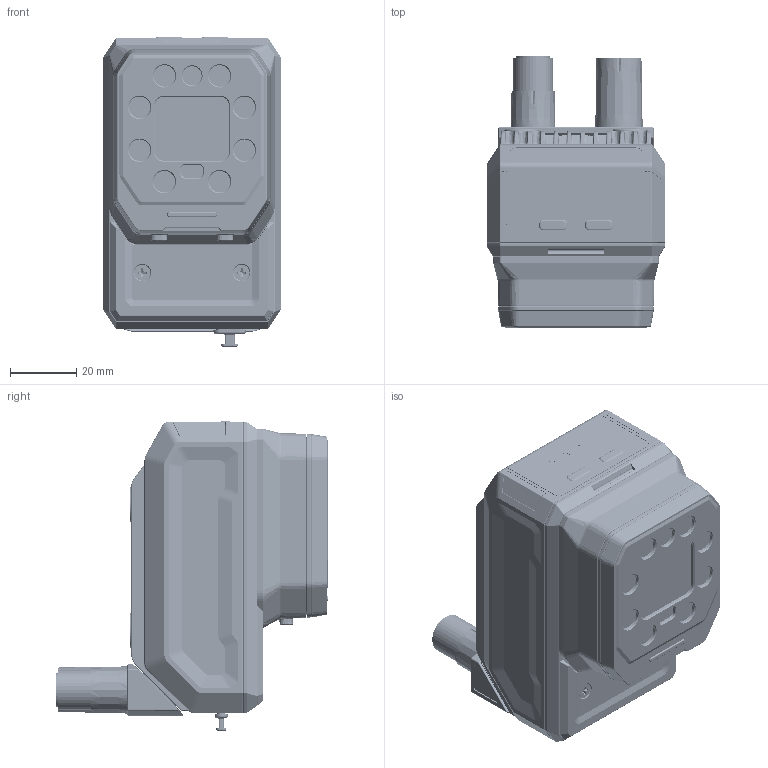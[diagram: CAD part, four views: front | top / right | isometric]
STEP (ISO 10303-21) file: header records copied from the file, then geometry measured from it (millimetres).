
FILE_DESCRIPTION((''),'2;1');
FILE_NAME('00-ID5050XM-ASSY_ASM','2024-11-18T18:00:03',('huguozhe'),(''),'CREO PARAMETRIC BY PTC INC, 2020044','CREO PARAMETRIC BY PTC INC, 2020044','');
FILE_SCHEMA(('AUTOMOTIVE_DESIGN { 1 0 10303 214 1 1 1 1 }'));
Products named in the file (32): DE-13-001803; DE-13-001802_ASM; DE-13-002199; DE-13-002200_ASM; DE-12-004312; DE-12-004313; DE-13-001769; DE-13-001818_ASM; DE-13-001770; DE-13-001771_ASM; DE-20-023137_ASM; L102-M12-ZJ12A01-ALL; CNT12-M12-LT08A02_ALL; SC-KM2X4NL-BNI-SCM435-GB819; DE-20-023136_ASM; DE-13-001795; DE-13-001794_ASM; DE-13-001797; DE-13-001796_ASM; DE-12-004304; DE-18-000217; DE-19-009228-02; DE-18-000217-02_ASM; DE-20-023504_ASM; DE-12-004314; SC-PM2_5X6-NI-GB823; SC-KM2_5X6B-JMF; DE-19-010235; DE-19-010237; DE-19-010235_ASM; DE-19-010553; 00-ID5050XM-ASSY_ASM
Assembly tree (36 placements, depth 5):
  00-ID5050XM-ASSY_ASM
    DE-13-001802_ASM
      DE-13-001803
    DE-13-002200_ASM
      DE-13-002199
    DE-12-004312
    DE-12-004313
    DE-20-023136_ASM
      DE-13-001818_ASM
        DE-13-001769
      DE-20-023137_ASM
        DE-13-001771_ASM
          DE-13-001770
      L102-M12-ZJ12A01-ALL
      CNT12-M12-LT08A02_ALL
      SC-KM2X4NL-BNI-SCM435-GB819  x2
    DE-20-023504_ASM
      DE-13-001794_ASM
        DE-13-001795
      DE-13-001796_ASM
        DE-13-001797
      DE-12-004304
      DE-18-000217-02_ASM
        DE-18-000217
        DE-19-009228-02
    DE-12-004314
    SC-PM2_5X6-NI-GB823  x4
    SC-KM2_5X6B-JMF  x2
    DE-19-010235_ASM
      DE-19-010235
      DE-19-010237
    DE-19-010553
Bounding box: 54 x 82.52 x 93.72 mm (x, y, z)
Volume: 75979.5 mm3; surface area: 86997.9 mm2
Topology: 25 solids, 116 shells, 5892 faces, 14521 edges, 8807 vertices
Faces by surface type: cylinder 1909, plane 1547, cone 964, torus 737, bspline 680, sphere 50, extrusion 3, revolution 2
Entity records: 257540 total; most frequent: CARTESIAN_POINT 90211, DIRECTION 27913, ORIENTED_EDGE 27454, EDGE_CURVE 13845, AXIS2_PLACEMENT_3D 11148, PRESENTATION_STYLE_ASSIGNMENT 8756, STYLED_ITEM 8706, VERTEX_POINT 8482
